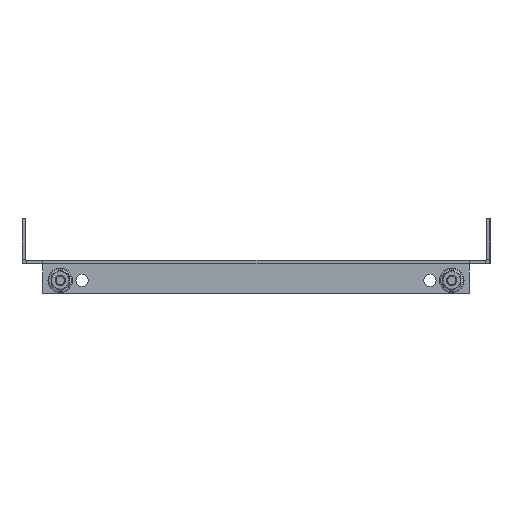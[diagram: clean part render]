
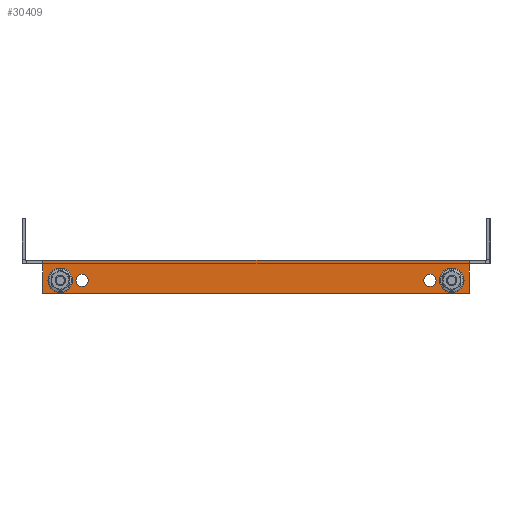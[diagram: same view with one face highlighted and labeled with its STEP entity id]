
A CAD part, left-side view. The second image highlights one B-rep face of the part: STEP entity #30409.
In plain terms, the highlighted planar face has unit normal (-1, 0, 0).
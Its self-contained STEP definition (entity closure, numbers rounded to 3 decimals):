
#20192 = VERTEX_POINT('',#20193);
#20193 = CARTESIAN_POINT('',(-250.,122.5,2.));
#20199 = EDGE_CURVE('',#20200,#20192,#20202,.T.);
#20200 = VERTEX_POINT('',#20201);
#20201 = CARTESIAN_POINT('',(-250.,-122.5,2.));
#20202 = LINE('',#20203,#20204);
#20203 = CARTESIAN_POINT('',(-250.,-132.5,2.));
#20204 = VECTOR('',#20205,1.);
#20205 = DIRECTION('',(0.,1.,-0.));
#30288 = VERTEX_POINT('',#30289);
#30289 = CARTESIAN_POINT('',(-250.,-122.5,-0.6));
#30304 = EDGE_CURVE('',#30288,#20200,#30305,.T.);
#30305 = LINE('',#30306,#30307);
#30306 = CARTESIAN_POINT('',(-250.,-122.5,-0.6));
#30307 = VECTOR('',#30308,1.);
#30308 = DIRECTION('',(0.,0.,1.));
#30328 = VERTEX_POINT('',#30329);
#30329 = CARTESIAN_POINT('',(-250.,122.5,-0.6));
#30335 = EDGE_CURVE('',#30328,#20192,#30336,.T.);
#30336 = LINE('',#30337,#30338);
#30337 = CARTESIAN_POINT('',(-250.,122.5,0.));
#30338 = VECTOR('',#30339,1.);
#30339 = DIRECTION('',(0.,0.,1.));
#30351 = EDGE_CURVE('',#30352,#30328,#30354,.T.);
#30352 = VERTEX_POINT('',#30353);
#30353 = CARTESIAN_POINT('',(-250.,122.5,-17.));
#30354 = LINE('',#30355,#30356);
#30355 = CARTESIAN_POINT('',(-250.,122.5,0.));
#30356 = VECTOR('',#30357,1.);
#30357 = DIRECTION('',(0.,-0.,1.));
#30391 = EDGE_CURVE('',#30288,#30392,#30394,.T.);
#30392 = VERTEX_POINT('',#30393);
#30393 = CARTESIAN_POINT('',(-250.,-122.5,-17.));
#30394 = LINE('',#30395,#30396);
#30395 = CARTESIAN_POINT('',(-250.,-122.5,-17.));
#30396 = VECTOR('',#30397,1.);
#30397 = DIRECTION('',(0.,0.,-1.));
#30409 = ADVANCED_FACE('',(#30410,#30430,#30450,#30461,#30472),#30485,
  .T.);
#30410 = FACE_BOUND('',#30411,.T.);
#30411 = EDGE_LOOP('',(#30412,#30423));
#30412 = ORIENTED_EDGE('',*,*,#30413,.F.);
#30413 = EDGE_CURVE('',#30414,#30416,#30418,.T.);
#30414 = VERTEX_POINT('',#30415);
#30415 = CARTESIAN_POINT('',(-250.,-112.5,-13.));
#30416 = VERTEX_POINT('',#30417);
#30417 = CARTESIAN_POINT('',(-250.,-112.5,-6.));
#30418 = CIRCLE('',#30419,3.5);
#30419 = AXIS2_PLACEMENT_3D('',#30420,#30421,#30422);
#30420 = CARTESIAN_POINT('',(-250.,-112.5,-9.5));
#30421 = DIRECTION('',(-1.,0.,0.));
#30422 = DIRECTION('',(0.,0.,-1.));
#30423 = ORIENTED_EDGE('',*,*,#30424,.F.);
#30424 = EDGE_CURVE('',#30416,#30414,#30425,.T.);
#30425 = CIRCLE('',#30426,3.5);
#30426 = AXIS2_PLACEMENT_3D('',#30427,#30428,#30429);
#30427 = CARTESIAN_POINT('',(-250.,-112.5,-9.5));
#30428 = DIRECTION('',(-1.,0.,0.));
#30429 = DIRECTION('',(0.,0.,-1.));
#30430 = FACE_BOUND('',#30431,.T.);
#30431 = EDGE_LOOP('',(#30432,#30443));
#30432 = ORIENTED_EDGE('',*,*,#30433,.F.);
#30433 = EDGE_CURVE('',#30434,#30436,#30438,.T.);
#30434 = VERTEX_POINT('',#30435);
#30435 = CARTESIAN_POINT('',(-250.,-100.,-13.));
#30436 = VERTEX_POINT('',#30437);
#30437 = CARTESIAN_POINT('',(-250.,-100.,-6.));
#30438 = CIRCLE('',#30439,3.5);
#30439 = AXIS2_PLACEMENT_3D('',#30440,#30441,#30442);
#30440 = CARTESIAN_POINT('',(-250.,-100.,-9.5));
#30441 = DIRECTION('',(-1.,0.,0.));
#30442 = DIRECTION('',(0.,0.,-1.));
#30443 = ORIENTED_EDGE('',*,*,#30444,.F.);
#30444 = EDGE_CURVE('',#30436,#30434,#30445,.T.);
#30445 = CIRCLE('',#30446,3.5);
#30446 = AXIS2_PLACEMENT_3D('',#30447,#30448,#30449);
#30447 = CARTESIAN_POINT('',(-250.,-100.,-9.5));
#30448 = DIRECTION('',(-1.,0.,0.));
#30449 = DIRECTION('',(0.,0.,-1.));
#30450 = FACE_BOUND('',#30451,.T.);
#30451 = EDGE_LOOP('',(#30452));
#30452 = ORIENTED_EDGE('',*,*,#30453,.F.);
#30453 = EDGE_CURVE('',#30454,#30454,#30456,.T.);
#30454 = VERTEX_POINT('',#30455);
#30455 = CARTESIAN_POINT('',(-250.,100.,-6.));
#30456 = CIRCLE('',#30457,3.5);
#30457 = AXIS2_PLACEMENT_3D('',#30458,#30459,#30460);
#30458 = CARTESIAN_POINT('',(-250.,100.,-9.5));
#30459 = DIRECTION('',(-1.,0.,0.));
#30460 = DIRECTION('',(0.,0.,1.));
#30461 = FACE_BOUND('',#30462,.T.);
#30462 = EDGE_LOOP('',(#30463));
#30463 = ORIENTED_EDGE('',*,*,#30464,.F.);
#30464 = EDGE_CURVE('',#30465,#30465,#30467,.T.);
#30465 = VERTEX_POINT('',#30466);
#30466 = CARTESIAN_POINT('',(-250.,112.5,-6.));
#30467 = CIRCLE('',#30468,3.5);
#30468 = AXIS2_PLACEMENT_3D('',#30469,#30470,#30471);
#30469 = CARTESIAN_POINT('',(-250.,112.5,-9.5));
#30470 = DIRECTION('',(-1.,0.,0.));
#30471 = DIRECTION('',(0.,0.,1.));
#30472 = FACE_BOUND('',#30473,.T.);
#30473 = EDGE_LOOP('',(#30474,#30475,#30476,#30477,#30478,#30479));
#30474 = ORIENTED_EDGE('',*,*,#30391,.F.);
#30475 = ORIENTED_EDGE('',*,*,#30304,.T.);
#30476 = ORIENTED_EDGE('',*,*,#20199,.T.);
#30477 = ORIENTED_EDGE('',*,*,#30335,.F.);
#30478 = ORIENTED_EDGE('',*,*,#30351,.F.);
#30479 = ORIENTED_EDGE('',*,*,#30480,.F.);
#30480 = EDGE_CURVE('',#30392,#30352,#30481,.T.);
#30481 = LINE('',#30482,#30483);
#30482 = CARTESIAN_POINT('',(-250.,122.5,-17.));
#30483 = VECTOR('',#30484,1.);
#30484 = DIRECTION('',(0.,1.,-0.));
#30485 = PLANE('',#30486);
#30486 = AXIS2_PLACEMENT_3D('',#30487,#30488,#30489);
#30487 = CARTESIAN_POINT('',(-250.,122.5,0.));
#30488 = DIRECTION('',(-1.,0.,0.));
#30489 = DIRECTION('',(0.,0.,1.));
